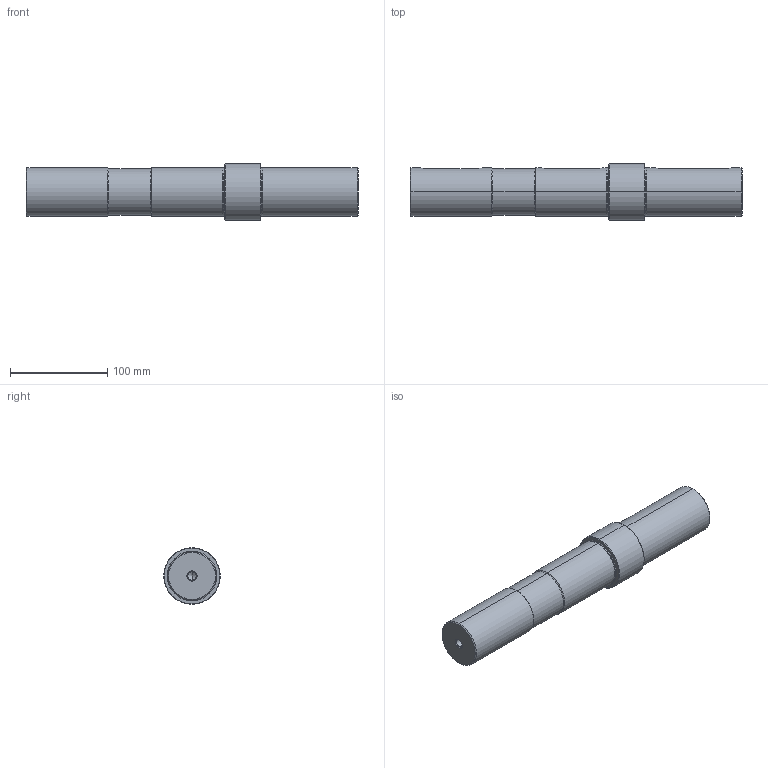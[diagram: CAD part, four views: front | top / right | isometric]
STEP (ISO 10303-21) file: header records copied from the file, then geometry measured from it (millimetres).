
FILE_DESCRIPTION (( 'STEP AP203' ), '1' );
FILE_NAME ('SOSSHAEN7.STEP', '2022-05-10T07:48:29', ( 'tecnico' ), ( 'Hewlett-Packard Company' ), 'SwSTEP 2.0', 'SolidWorks 2018', '' );
FILE_SCHEMA (( 'CONFIG_CONTROL_DESIGN' ));
Length unit declared in the file: millimetre
Products named in the file (1): SOSSHAEN7
Bounding box: 341 x 58 x 58 mm (x, y, z)
Volume: 664172.3 mm3; surface area: 63681.2 mm2
Topology: 1 solids, 1 shells, 94 faces, 202 edges, 114 vertices
Faces by surface type: cylinder 38, cone 22, torus 20, plane 14
Entity records: 2827 total; most frequent: CARTESIAN_POINT 683, DIRECTION 484, ORIENTED_EDGE 396, AXIS2_PLACEMENT_3D 203, EDGE_CURVE 198, VERTEX_POINT 114, CIRCLE 108, EDGE_LOOP 102
